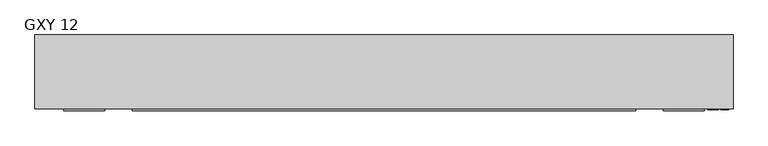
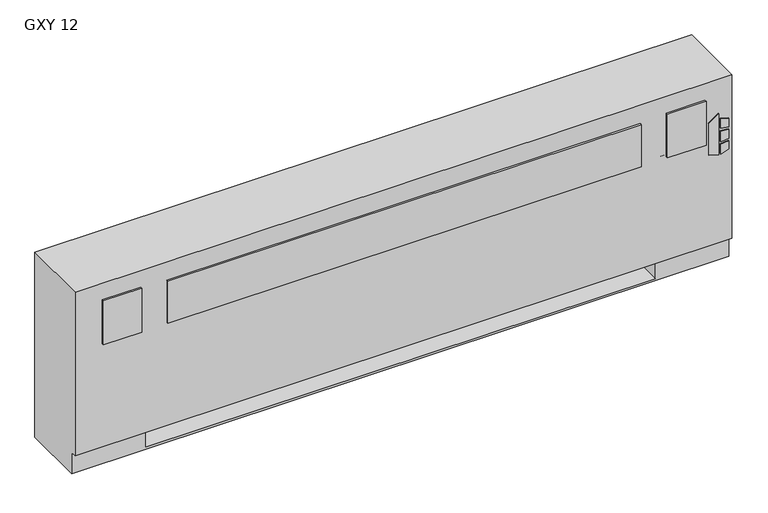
"""IFC4 building model written with IfcOpenShell, lengths in millimetres: proxy geometry, Vertical_Fan_Coil_Unit_-_GXY_-_IEC_-_2-Pipe_FS-FR_RH_2022 : GXY 12."""

from ifc_helpers import new_model, si_unit, point, frame, frame_2d, origin, place, context, project, spatial, polyline, circle_curve, trimmed, segment, composite_curve, outline, extrude, source, transform, mapped, element, save
from ifc_brep_helpers import plane_surface, revolved_surface, advanced_brep


def gxy_12_dbbb1e86(model_context):
    return source(origin(), model_context, "Body", "SolidModel", [
        extrude(outline(polyline([(391.6086829, 1154.1868862), (381.6606126, 1186.3602728), (523.831537, 1186.3602728), (500.8095309, 1154.1868862), (391.6086829, 1154.1868862)])), frame((0.0, 12.7, 0.0), z_axis=(0.0, 1.0, 0.0), x_axis=(0.0, 0.0, 1.0)), (0.0, 0.0, 1.0), 3.175),
        extrude(outline(polyline([(470.6079683, 1193.1186058), (467.4055757, 1219.2), (496.6344168, 1219.2), (504.6988318, 1193.1186058), (470.6079683, 1193.1186058)])), frame((0.0, 12.7, 0.0), z_axis=(0.0, 1.0, 0.0), x_axis=(0.0, 0.0, 1.0)), (0.0, 0.0, 1.0), 3.175),
        extrude(outline(polyline([(418.7444414, 1219.2), (415.0789404, 1193.1186058), (381.6606126, 1193.1186058), (390.2948498, 1219.2), (418.7444414, 1219.2)])), frame((0.0, 12.7, 0.0), z_axis=(0.0, 1.0, 0.0), x_axis=(0.0, 0.0, 1.0)), (0.0, 0.0, 1.0), 3.175),
        extrude(outline(polyline([(458.0596028, 1219.2), (460.3414292, 1193.1186058), (424.4038806, 1193.1186058), (427.1451456, 1219.2), (458.0596028, 1219.2)])), frame((0.0, 12.7, 0.0), z_axis=(0.0, 1.0, 0.0), x_axis=(0.0, 0.0, 1.0)), (0.0, 0.0, 1.0), 3.175),
        extrude(outline(polyline([(-711.2, 9.525), (-838.2, 9.525), (-838.2, 15.875), (-711.2, 15.875), (-711.2, 9.525)])), frame((0.0, 0.0, 431.8), z_axis=(0.0, 0.0, 1.0), x_axis=(1.0, 0.0, 0.0)), (0.0, 0.0, 1.0), 152.4),
        extrude(outline(polyline([(930.275, 9.525), (-625.475, 9.525), (-625.475, 15.875), (930.275, 15.875), (930.275, 9.525)])), frame((0.0, 0.0, 431.8), z_axis=(0.0, 0.0, 1.0), x_axis=(1.0, 0.0, 0.0)), (0.0, 0.0, 1.0), 146.05),
        extrude(outline(polyline([(1143.0, 9.525), (1016.0, 9.525), (1016.0, 15.875), (1143.0, 15.875), (1143.0, 9.525)])), frame((0.0, 0.0, 431.8), z_axis=(0.0, 0.0, 1.0), x_axis=(1.0, 0.0, 0.0)), (0.0, 0.0, 1.0), 152.4),
        extrude(outline(polyline([(-806.45, 81.534), (-806.45, 223.266), (-127.0, 223.266), (-127.0, 81.534), (-806.45, 81.534)])), frame((0.0, 0.0, 327.025), z_axis=(0.0, 0.0, 1.0), x_axis=(1.0, 0.0, 0.0)), (0.0, 0.0, 1.0), 260.35),
        extrude(outline(composite_curve([segment(trimmed(circle_curve(frame_2d((78.9432, 398.5514)), 7.9375), [point((78.9432, 406.4889))], [point((78.9432, 390.6139))], False, "CARTESIAN"), True, "CONTINUOUS"), segment(trimmed(circle_curve(frame_2d((78.9432, 398.5514)), 7.9375), [point((78.9432, 390.6139))], [point((78.9432, 406.4889))], False, "CARTESIAN"), True, "CONTINUOUS")], self_intersect=False)), frame((990.6, 0.0, 0.0), z_axis=(1.0, 0.0, 0.0), x_axis=(0.0, 1.0, 0.0)), (0.0, 0.0, 1.0), 50.8),
        extrude(outline(composite_curve([segment(trimmed(circle_curve(frame_2d((155.9052, 537.3878)), 7.9375), [point((155.9052, 545.3253))], [point((155.9052, 529.4503))], False, "CARTESIAN"), True, "CONTINUOUS"), segment(trimmed(circle_curve(frame_2d((155.9052, 537.3878)), 7.9375), [point((155.9052, 529.4503))], [point((155.9052, 545.3253))], False, "CARTESIAN"), True, "CONTINUOUS")], self_intersect=False)), frame((990.6, 0.0, 0.0), z_axis=(1.0, 0.0, 0.0), x_axis=(0.0, 1.0, 0.0)), (0.0, 0.0, 1.0), 50.8),
        advanced_brep(
        [(1231.9, 244.475, 641.35), (-927.1, 244.475, 641.35), (-927.1, 15.875, 641.35), (1231.9, 15.875, 641.35), (-927.1, 244.475, 0.0), (1231.9, 244.475, 0.0), (1231.9, 34.925, 0.0), (-927.1, 34.925, 0.0), (990.6, 244.475, 73.025), (1219.2, 244.475, 73.025), (1219.2, 244.475, 628.65), (990.6, 244.475, 628.65), (990.6, 244.475, 418.0400565), (1019.175, 244.475, 418.0400565), (1019.175, 244.475, 388.4099435), (990.6, 244.475, 388.4099435), (990.6, 244.475, 290.5125), (1019.175, 244.475, 290.5125), (1019.175, 244.475, 261.9375), (990.6, 244.475, 261.9375), (990.6, 244.475, 119.0625), (1019.175, 244.475, 119.0625), (1019.175, 244.475, 90.4875), (990.6, 244.475, 90.4875), (-685.8, 244.475, 628.65), (-914.4, 244.475, 628.65), (-914.4, 244.475, 73.025), (-685.8, 244.475, 73.025), (-685.8, 244.475, 90.4875), (-714.375, 244.475, 90.4875), (-714.375, 244.475, 119.0625), (-685.8, 244.475, 119.0625), (-685.8, 244.475, 261.9375), (-714.375, 244.475, 261.9375), (-714.375, 244.475, 290.5125), (-685.8, 244.475, 290.5125), (-685.8, 244.475, 388.4099435), (-714.375, 244.475, 388.4099435), (-714.375, 244.475, 418.0400565), (-685.8, 244.475, 418.0400565), (1008.8626, 244.475, 104.775), (997.7374, 244.475, 104.775), (1008.8626, 244.475, 403.225), (997.7374, 244.475, 403.225), (1008.8626, 244.475, 276.225), (997.7374, 244.475, 276.225), (-692.9374, 244.475, 104.775), (-704.0626, 244.475, 104.775), (-692.9374, 244.475, 276.225), (-704.0626, 244.475, 276.225), (-692.9374, 244.475, 403.225), (-704.0626, 244.475, 403.225), (-927.1, 34.925, 73.025), (-927.1, 15.875, 73.025), (1231.9, 15.875, 73.025), (1231.9, 34.925, 73.025), (-685.8, 34.925, 73.025), (-685.8, 219.075, 73.025), (990.6, 219.075, 73.025), (990.6, 34.925, 73.025), (990.6, 34.925, 6.35), (-685.8, 34.925, 6.35), (990.6, 41.275, 628.65), (1219.2, 41.275, 628.65), (1219.2, 41.275, 73.025), (990.6, 41.275, 73.025), (-685.8, 41.275, 628.65), (-685.8, 41.275, 73.025), (-914.4, 41.275, 73.025), (-914.4, 41.275, 628.65), (990.6, 219.075, 73.025), (990.6, 238.125, 90.4875), (990.6, 238.125, 119.0625), (990.6, 238.125, 261.9375), (990.6, 238.125, 290.5125), (990.6, 238.125, 388.4099435), (990.6, 238.125, 418.0400565), (-685.8, 219.075, 73.025), (-685.8, 238.125, 418.0400565), (-685.8, 238.125, 388.4099435), (-685.8, 238.125, 290.5125), (-685.8, 238.125, 261.9375), (-685.8, 238.125, 119.0625), (-685.8, 238.125, 90.4875), (-685.8, 219.075, 6.35), (990.6, 219.075, 6.35), (1019.175, 238.125, 90.4875), (1019.175, 238.125, 119.0625), (997.7374, 238.125, 104.775), (1008.8626, 238.125, 104.775), (1019.175, 238.125, 261.9375), (1019.175, 238.125, 290.5125), (997.7374, 238.125, 276.225), (1008.8626, 238.125, 276.225), (1019.175, 238.125, 388.4099435), (1019.175, 238.125, 418.0400565), (997.7374, 238.125, 403.225), (1008.8626, 238.125, 403.225), (-714.375, 238.125, 119.0625), (-714.375, 238.125, 90.4875), (-704.0626, 238.125, 104.775), (-692.9374, 238.125, 104.775), (-714.375, 238.125, 290.5125), (-714.375, 238.125, 261.9375), (-704.0626, 238.125, 276.225), (-692.9374, 238.125, 276.225), (-714.375, 238.125, 418.0400565), (-714.375, 238.125, 388.4099435), (-704.0626, 238.125, 403.225), (-692.9374, 238.125, 403.225)],
        [
            (0, 1),
            (1, 2),
            (2, 3),
            (3, 0),
            (4, 5),
            (5, 6),
            (6, 7),
            (7, 4),
            (0, 5),
            (4, 1),
            (8, 9),
            (9, 10),
            (10, 11),
            (11, 12),
            (12, 13),
            (13, 14),
            (14, 15),
            (15, 16),
            (16, 17),
            (17, 18),
            (18, 19),
            (19, 20),
            (20, 21),
            (21, 22),
            (22, 23),
            (23, 8),
            (24, 25),
            (25, 26),
            (26, 27),
            (27, 28),
            (28, 29),
            (29, 30),
            (30, 31),
            (31, 32),
            (32, 33),
            (33, 34),
            (34, 35),
            (35, 36),
            (36, 37),
            (37, 38),
            (38, 39),
            (39, 24),
            (40, 41, circle_curve(frame((1003.3, 244.475, 104.775), z_axis=(0.0, -1.0, 0.0), x_axis=(-1.0, 0.0, 0.0)), 5.5626)),
            (41, 40, circle_curve(frame((1003.3, 244.475, 104.775), z_axis=(0.0, -1.0, 0.0), x_axis=(-1.0, 0.0, 0.0)), 5.5626)),
            (42, 43, circle_curve(frame((1003.3, 244.475, 403.225), z_axis=(0.0, -1.0, 0.0), x_axis=(-1.0, 0.0, 0.0)), 5.5626)),
            (43, 42, circle_curve(frame((1003.3, 244.475, 403.225), z_axis=(0.0, -1.0, 0.0), x_axis=(-1.0, 0.0, 0.0)), 5.5626)),
            (44, 45, circle_curve(frame((1003.3, 244.475, 276.225), z_axis=(0.0, -1.0, 0.0), x_axis=(-1.0, 0.0, 0.0)), 5.5626)),
            (45, 44, circle_curve(frame((1003.3, 244.475, 276.225), z_axis=(0.0, -1.0, 0.0), x_axis=(-1.0, 0.0, 0.0)), 5.5626)),
            (46, 47, circle_curve(frame((-698.5, 244.475, 104.775), z_axis=(0.0, -1.0, 0.0), x_axis=(-1.0, 0.0, 0.0)), 5.5626)),
            (47, 46, circle_curve(frame((-698.5, 244.475, 104.775), z_axis=(0.0, -1.0, 0.0), x_axis=(-1.0, 0.0, 0.0)), 5.5626)),
            (48, 49, circle_curve(frame((-698.5, 244.475, 276.225), z_axis=(0.0, -1.0, 0.0), x_axis=(-1.0, 0.0, 0.0)), 5.5626)),
            (49, 48, circle_curve(frame((-698.5, 244.475, 276.225), z_axis=(0.0, -1.0, 0.0), x_axis=(-1.0, 0.0, 0.0)), 5.5626)),
            (50, 51, circle_curve(frame((-698.5, 244.475, 403.225), z_axis=(0.0, -1.0, 0.0), x_axis=(-1.0, 0.0, 0.0)), 5.5626)),
            (51, 50, circle_curve(frame((-698.5, 244.475, 403.225), z_axis=(0.0, -1.0, 0.0), x_axis=(-1.0, 0.0, 0.0)), 5.5626)),
            (7, 52),
            (52, 53),
            (53, 2),
            (53, 54),
            (54, 3),
            (54, 55),
            (55, 6),
            (52, 56),
            (56, 57),
            (57, 58),
            (58, 59),
            (59, 55),
            (59, 60),
            (60, 61),
            (61, 56),
            (62, 63),
            (63, 64),
            (64, 65),
            (65, 62),
            (66, 67),
            (67, 68),
            (68, 69),
            (69, 66),
            (65, 70),
            (70, 8),
            (23, 71),
            (71, 72),
            (72, 20),
            (19, 73),
            (73, 74),
            (74, 16),
            (15, 75),
            (75, 76),
            (76, 12),
            (11, 62),
            (64, 9),
            (63, 10),
            (69, 25),
            (24, 66),
            (68, 26),
            (67, 77),
            (77, 27),
            (39, 78),
            (78, 79),
            (79, 36),
            (35, 80),
            (80, 81),
            (81, 32),
            (31, 82),
            (82, 83),
            (83, 28),
            (57, 84),
            (84, 85),
            (85, 58),
            (85, 60),
            (84, 61),
            (71, 86),
            (86, 87),
            (87, 72),
            (88, 89, circle_curve(frame((1003.3, 238.125, 104.775), z_axis=(0.0, 1.0, 0.0), x_axis=(-1.0, 0.0, 0.0)), 5.5626)),
            (89, 88, circle_curve(frame((1003.3, 238.125, 104.775), z_axis=(0.0, 1.0, 0.0), x_axis=(-1.0, 0.0, 0.0)), 5.5626)),
            (73, 90),
            (90, 91),
            (91, 74),
            (92, 93, circle_curve(frame((1003.3, 238.125, 276.225), z_axis=(0.0, 1.0, 0.0), x_axis=(-1.0, 0.0, 0.0)), 5.5626)),
            (93, 92, circle_curve(frame((1003.3, 238.125, 276.225), z_axis=(0.0, 1.0, 0.0), x_axis=(-1.0, 0.0, 0.0)), 5.5626)),
            (75, 94),
            (94, 95),
            (95, 76),
            (96, 97, circle_curve(frame((1003.3, 238.125, 403.225), z_axis=(0.0, 1.0, 0.0), x_axis=(-1.0, 0.0, 0.0)), 5.5626)),
            (97, 96, circle_curve(frame((1003.3, 238.125, 403.225), z_axis=(0.0, 1.0, 0.0), x_axis=(-1.0, 0.0, 0.0)), 5.5626)),
            (98, 99),
            (99, 83),
            (82, 98),
            (100, 101, circle_curve(frame((-698.5, 238.125, 104.775), z_axis=(0.0, 1.0, 0.0), x_axis=(-1.0, 0.0, 0.0)), 5.5626)),
            (101, 100, circle_curve(frame((-698.5, 238.125, 104.775), z_axis=(0.0, 1.0, 0.0), x_axis=(-1.0, 0.0, 0.0)), 5.5626)),
            (102, 103),
            (103, 81),
            (80, 102),
            (104, 105, circle_curve(frame((-698.5, 238.125, 276.225), z_axis=(0.0, 1.0, 0.0), x_axis=(-1.0, 0.0, 0.0)), 5.5626)),
            (105, 104, circle_curve(frame((-698.5, 238.125, 276.225), z_axis=(0.0, 1.0, 0.0), x_axis=(-1.0, 0.0, 0.0)), 5.5626)),
            (106, 107),
            (107, 79),
            (78, 106),
            (108, 109, circle_curve(frame((-698.5, 238.125, 403.225), z_axis=(0.0, 1.0, 0.0), x_axis=(-1.0, 0.0, 0.0)), 5.5626)),
            (109, 108, circle_curve(frame((-698.5, 238.125, 403.225), z_axis=(0.0, 1.0, 0.0), x_axis=(-1.0, 0.0, 0.0)), 5.5626)),
            (87, 21),
            (86, 22),
            (91, 17),
            (90, 18),
            (95, 13),
            (94, 14),
            (30, 98),
            (99, 29),
            (34, 102),
            (103, 33),
            (38, 106),
            (107, 37),
            (88, 41),
            (40, 89),
            (96, 43),
            (42, 97),
            (92, 45),
            (44, 93),
            (100, 47),
            (46, 101),
            (104, 49),
            (48, 105),
            (108, 51),
            (50, 109),
        ],
        [
            plane_surface(frame((-927.1, 244.475, 641.35), z_axis=(0.0, 0.0, 1.0), x_axis=(-1.0, 0.0, 0.0))),
            plane_surface(frame((-927.1, 244.475, 0.0), z_axis=(0.0, 0.0, -1.0), x_axis=(1.0, 0.0, 0.0))),
            plane_surface(frame((1231.9, 244.475, 641.35), z_axis=(0.0, 1.0, 0.0), x_axis=(0.0, 0.0, -1.0))),
            plane_surface(frame((-927.1, 244.475, 641.35), z_axis=(-1.0, 0.0, 0.0), x_axis=(0.0, 0.0, -1.0))),
            plane_surface(frame((-927.1, 15.875, 641.35), z_axis=(0.0, -1.0, 0.0), x_axis=(0.0, 0.0, -1.0))),
            plane_surface(frame((1231.9, 15.875, 641.35), z_axis=(1.0, 0.0, 0.0), x_axis=(0.0, 0.0, -1.0))),
            plane_surface(frame((-927.1, 15.875, 73.025), z_axis=(0.0, 0.0, -1.0), x_axis=(1.0, 0.0, 0.0))),
            plane_surface(frame((-927.1, 34.925, 73.025), z_axis=(0.0, -1.0, 0.0), x_axis=(1.0, 0.0, 0.0))),
            plane_surface(frame((990.6, 41.275, 628.65), z_axis=(0.0, 1.0, 0.0), x_axis=(0.0, 0.0, -1.0))),
            plane_surface(frame((990.6, 41.275, 628.65), z_axis=(1.0, 0.0, 0.0), x_axis=(0.0, 1.0, 0.0))),
            plane_surface(frame((990.6, 41.275, 73.025), z_axis=(0.0, 0.0, 1.0), x_axis=(0.0, 1.0, 0.0))),
            plane_surface(frame((1219.2, 41.275, 73.025), z_axis=(-1.0, 0.0, 0.0), x_axis=(0.0, 1.0, 0.0))),
            plane_surface(frame((1219.2, 41.275, 628.65), z_axis=(0.0, 0.0, -1.0), x_axis=(0.0, 1.0, 0.0))),
            plane_surface(frame((-685.8, 41.275, 628.65), z_axis=(0.0, 0.0, -1.0), x_axis=(0.0, 1.0, 0.0))),
            plane_surface(frame((-914.4, 41.275, 628.65), z_axis=(1.0, 0.0, 0.0), x_axis=(0.0, 1.0, 0.0))),
            plane_surface(frame((-914.4, 41.275, 73.025), z_axis=(0.0, 0.0, 1.0), x_axis=(0.0, 1.0, 0.0))),
            plane_surface(frame((-685.8, 41.275, 73.025), z_axis=(-1.0, 0.0, 0.0), x_axis=(0.0, 1.0, 0.0))),
            plane_surface(frame((990.6, 219.075, 73.025), z_axis=(0.0, -1.0, 0.0), x_axis=(0.0, 0.0, -1.0))),
            plane_surface(frame((990.6, 219.075, 73.025), z_axis=(-1.0, 0.0, 0.0), x_axis=(0.0, -1.0, 0.0))),
            plane_surface(frame((990.6, 219.075, 6.35), z_axis=(0.0, 0.0, 1.0), x_axis=(0.0, -1.0, 0.0))),
            plane_surface(frame((-685.8, 219.075, 6.35), z_axis=(1.0, 0.0, 0.0), x_axis=(0.0, -1.0, 0.0))),
            plane_surface(frame((1019.175, 238.125, 119.0625), z_axis=(0.0, -1.0, 0.0), x_axis=(-1.0, 0.0, 0.0))),
            plane_surface(frame((990.6, 244.475, 119.0625), z_axis=(0.0, 0.0, 1.0), x_axis=(0.0, -1.0, 0.0))),
            plane_surface(frame((1019.175, 244.475, 119.0625), z_axis=(1.0, 0.0, 0.0), x_axis=(0.0, -1.0, 0.0))),
            plane_surface(frame((1019.175, 244.475, 90.4875), z_axis=(0.0, 0.0, -1.0), x_axis=(0.0, -1.0, 0.0))),
            plane_surface(frame((990.6, 244.475, 290.5125), z_axis=(0.0, 0.0, 1.0), x_axis=(0.0, -1.0, 0.0))),
            plane_surface(frame((1019.175, 244.475, 290.5125), z_axis=(1.0, 0.0, 0.0), x_axis=(0.0, -1.0, 0.0))),
            plane_surface(frame((1019.175, 244.475, 261.9375), z_axis=(0.0, 0.0, -1.0), x_axis=(0.0, -1.0, 0.0))),
            plane_surface(frame((990.6, 244.475, 418.0400565), z_axis=(0.0, 0.0, 1.0), x_axis=(0.0, -1.0, 0.0))),
            plane_surface(frame((1019.175, 244.475, 418.0400565), z_axis=(1.0, 0.0, 0.0), x_axis=(0.0, -1.0, 0.0))),
            plane_surface(frame((1019.175, 244.475, 388.4099435), z_axis=(0.0, 0.0, -1.0), x_axis=(0.0, -1.0, 0.0))),
            plane_surface(frame((-714.375, 244.475, 119.0625), z_axis=(0.0, 0.0, 1.0), x_axis=(0.0, -1.0, 0.0))),
            plane_surface(frame((-685.8, 244.475, 90.4875), z_axis=(0.0, 0.0, -1.0), x_axis=(0.0, -1.0, 0.0))),
            plane_surface(frame((-714.375, 244.475, 90.4875), z_axis=(-1.0, 0.0, 0.0), x_axis=(0.0, -1.0, 0.0))),
            plane_surface(frame((-714.375, 244.475, 290.5125), z_axis=(0.0, 0.0, 1.0), x_axis=(0.0, -1.0, 0.0))),
            plane_surface(frame((-685.8, 244.475, 261.9375), z_axis=(0.0, 0.0, -1.0), x_axis=(0.0, -1.0, 0.0))),
            plane_surface(frame((-714.375, 244.475, 261.9375), z_axis=(-1.0, 0.0, 0.0), x_axis=(0.0, -1.0, 0.0))),
            plane_surface(frame((-714.375, 244.475, 418.0400565), z_axis=(0.0, 0.0, 1.0), x_axis=(0.0, -1.0, 0.0))),
            plane_surface(frame((-685.8, 244.475, 388.4099435), z_axis=(0.0, 0.0, -1.0), x_axis=(0.0, -1.0, 0.0))),
            plane_surface(frame((-714.375, 244.475, 388.4099435), z_axis=(-1.0, 0.0, 0.0), x_axis=(0.0, -1.0, 0.0))),
            revolved_surface(polyline([(997.7374, 238.125, 104.775), (997.7374, 244.475, 104.775)]), (1003.3, 244.475, 104.775), (0.0, -1.0, 0.0)),
            revolved_surface(polyline([(997.7374, 238.125, 403.225), (997.7374, 244.475, 403.225)]), (1003.3, 244.475, 403.225), (0.0, -1.0, 0.0)),
            revolved_surface(polyline([(997.7374, 238.125, 276.225), (997.7374, 244.475, 276.225)]), (1003.3, 244.475, 276.225), (0.0, -1.0, 0.0)),
            revolved_surface(polyline([(-704.0626, 238.125, 104.775), (-704.0626, 244.475, 104.775)]), (-698.5, 244.475, 104.775), (0.0, -1.0, 0.0)),
            revolved_surface(polyline([(-704.0626, 238.125, 276.225), (-704.0626, 244.475, 276.225)]), (-698.5, 244.475, 276.225), (0.0, -1.0, 0.0)),
            revolved_surface(polyline([(-704.0626, 238.125, 403.225), (-704.0626, 244.475, 403.225)]), (-698.5, 244.475, 403.225), (0.0, -1.0, 0.0)),
        ],
        [
            (0, [[1, 2, 3, 4]]),
            (1, [[5, 6, 7, 8]]),
            (2, [[-1, 9, -5, 10], [11, 12, 13, 14, 15, 16, 17, 18, 19, 20, 21, 22, 23, 24, 25, 26], [27, 28, 29, 30, 31, 32, 33, 34, 35, 36, 37, 38, 39, 40, 41, 42], [43, 44], [45, 46], [47, 48], [49, 50], [51, 52], [53, 54]]),
            (3, [[-2, -10, -8, 55, 56, 57]]),
            (4, [[-3, -57, 58, 59]]),
            (5, [[-4, -59, 60, 61, -6, -9]]),
            (6, [[-56, 62, 63, 64, 65, 66, -60, -58]]),
            (7, [[-7, -61, -66, 67, 68, 69, -62, -55]]),
            (8, [[70, 71, 72, 73]]),
            (8, [[74, 75, 76, 77]]),
            (9, [[-73, 78, 79, -26, 80, 81, 82, -22, 83, 84, 85, -18, 86, 87, 88, -14, 89]]),
            (10, [[-72, 90, -11, -79, -78]]),
            (11, [[-71, 91, -12, -90]]),
            (12, [[-70, -89, -13, -91]]),
            (13, [[-77, 92, -27, 93]]),
            (14, [[-76, 94, -28, -92]]),
            (15, [[-75, 95, 96, -29, -94]]),
            (16, [[-74, -93, -42, 97, 98, 99, -38, 100, 101, 102, -34, 103, 104, 105, -30, -96, -95]]),
            (17, [[-64, 106, 107, 108]]),
            (18, [[-108, 109, -67, -65]]),
            (19, [[-107, 110, -68, -109]]),
            (20, [[-106, -63, -69, -110]]),
            (21, [[111, 112, 113, -81], [114, 115]]),
            (21, [[116, 117, 118, -84], [119, 120]]),
            (21, [[121, 122, 123, -87], [124, 125]]),
            (21, [[126, 127, -104, 128], [129, 130]]),
            (21, [[131, 132, -101, 133], [134, 135]]),
            (21, [[136, 137, -98, 138], [139, 140]]),
            (22, [[-113, 141, -23, -82]]),
            (23, [[-112, 142, -24, -141]]),
            (24, [[-111, -80, -25, -142]]),
            (25, [[-118, 143, -19, -85]]),
            (26, [[-117, 144, -20, -143]]),
            (27, [[-116, -83, -21, -144]]),
            (28, [[-123, 145, -15, -88]]),
            (29, [[-122, 146, -16, -145]]),
            (30, [[-121, -86, -17, -146]]),
            (31, [[-128, -103, -33, 147]]),
            (32, [[-127, 148, -31, -105]]),
            (33, [[-126, -147, -32, -148]]),
            (34, [[-133, -100, -37, 149]]),
            (35, [[-132, 150, -35, -102]]),
            (36, [[-131, -149, -36, -150]]),
            (37, [[-138, -97, -41, 151]]),
            (38, [[-137, 152, -39, -99]]),
            (39, [[-136, -151, -40, -152]]),
            (40, [[153, -43, 154, -114]]),
            (40, [[-153, -115, -154, -44]]),
            (41, [[155, -45, 156, -124]]),
            (41, [[-155, -125, -156, -46]]),
            (42, [[157, -47, 158, -119]]),
            (42, [[-157, -120, -158, -48]]),
            (43, [[159, -49, 160, -129]]),
            (43, [[-159, -130, -160, -50]]),
            (44, [[161, -51, 162, -134]]),
            (44, [[-161, -135, -162, -52]]),
            (45, [[163, -53, 164, -139]]),
            (45, [[-163, -140, -164, -54]]),
        ],
    ),
    ])


if __name__ == "__main__":
    model = new_model("IFC4")
    model_context = context("Model", 3, world=origin())
    ifc_project = project(units=[si_unit("LENGTHUNIT", "METRE", prefix="MILLI")], contexts=[model_context])
    site = spatial("IfcSite", under=ifc_project)
    building = spatial("IfcBuilding", under=site)
    placement = place(None, origin())
    gxy_12_shape = gxy_12_dbbb1e86(model_context)
    element("IfcBuildingElementProxy", 1, Name="Vertical_Fan_Coil_Unit_-_GXY_-_IEC_-_2-Pipe_FS-FR_RH_2022 : GXY 12", ObjectType="Vertical_Fan_Coil_Unit_-_GXY_-_IEC_-_2-Pipe_FS-FR_RH_2022 : GXY 12", at=placement, inside=building, context=model_context, shape_type="MappedRepresentation", body=[
        mapped(gxy_12_shape, transform((0.0, 0.0, 0.0), x_axis=(1.0, 0.0, 0.0), y_axis=(0.0, 1.0, 0.0), z_axis=(0.0, 0.0, 1.0))),
    ])
    save(model, "model.ifc")
